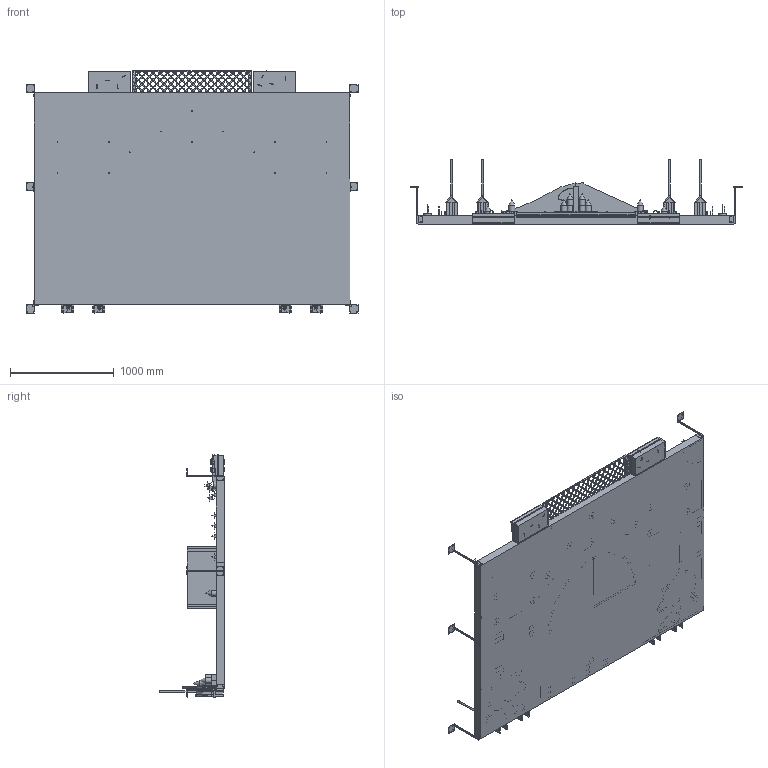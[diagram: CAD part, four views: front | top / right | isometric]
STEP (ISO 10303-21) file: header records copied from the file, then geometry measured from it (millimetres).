
FILE_DESCRIPTION(/* description */ (''),/* implementation_level */ '2;1');
FILE_NAME(/* name */ 'C:\Users\Flopy\OneDrive\SE\2016\Table\ASSY Table with elements.stp',/* time_stamp */ '2015-09-30T19:40:47+02:00',/* author */ ('Flopy'),/* organization */ (''),/* preprocessor_version */ 'ST-DEVELOPER v15.6',/* originating_system */ 'Autodesk Inventor 2015',/* authorisation */ '');
FILE_SCHEMA (('AUTOMOTIVE_DESIGN { 1 0 10303 214 3 1 1 }'));
Length unit declared in the file: millimetre
Products named in the file (40): arc; Beacon support corner; Beacon support middle; Rod 1; Rod 2; Rod 3; Rod 4; Round border; Table; Glass; Aquarium; Net; Rod 7; Rod 8; Net Support; Beach hut - Matt; Beach hut - Roof 2; Beach hut - Roof 1; Beach hut - Wall 1; Beach hut - Wall 2; Beach hut - Wall back; Beach hut - Wall front; Beach hut - door; Beach hut - Ground; Beach hut - Door 2; Beach hut - Wall 3; Beach Hut Green; Beach Hut Green_1; Beach Hut Violet; Beach Hut Violet_1; ASSY Table; Sand Cone; Sand Cube; Sand Cylinder; Seashell Violet; Seashell Green; Seashell; Fish Green; Fish Violet; ASSY Table with elements
Assembly tree (175 placements, depth 4):
  ASSY Table with elements
    ASSY Table
      arc
      Beacon support corner  x4
      Beacon support middle  x2
      Rod 1  x2
      Rod 2  x2
      Rod 3  x2
      Rod 4  x2
      Round border  x2
      Table
      Glass
      Aquarium  x2
      Net
      Rod 7
      Rod 8  x4
      Net Support  x2
      Beach Hut Green
        Beach hut - Matt
        Beach hut - Roof 2
        Beach hut - Roof 1
        Beach hut - Wall 1
        Beach hut - Wall 2
        Beach hut - Wall back
        Beach hut - Wall front
        Beach hut - door
        Beach hut - Ground
        Beach hut - Door 2
        Beach hut - Wall 3
      Beach Hut Green_1
        Beach hut - Matt
        Beach hut - Roof 2
        Beach hut - Roof 1
        Beach hut - Wall 1
        Beach hut - Wall 2
        Beach hut - Wall back
        Beach hut - Wall front
        Beach hut - door
        Beach hut - Ground
        Beach hut - Door 2
        Beach hut - Wall 3
      Beach Hut Violet
        Beach hut - Matt
        Beach hut - Roof 2
        Beach hut - Roof 1
        Beach hut - Wall 1
        Beach hut - Wall 2
        Beach hut - Wall back
        Beach hut - Wall front
        Beach hut - door
        Beach hut - Door 2
        Beach hut - Wall 3
        Beach hut - Ground
      Beach Hut Violet_1
        Beach hut - Matt
        Beach hut - Roof 2
        Beach hut - Roof 1
        Beach hut - Wall 1
        Beach hut - Wall 2
        Beach hut - Wall back
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Bounding box: 3204 x 625.51 x 2336.85 mm (x, y, z)
Volume: 114503011 mm3; surface area: 20346960.5 mm2
Topology: 273 solids, 273 shells, 2812 faces, 6640 edges, 4341 vertices
Faces by surface type: plane 2414, cylinder 335, bspline 54, cone 9
Full cylindrical faces by diameter (mm): 4 x80, 5 x34, 6 x8, 9 x16, 16 x8, 18 x4, 30 x4, 40 x32, 44 x32, 58 x20, 72 x20
Entity records: 41297 total; most frequent: CARTESIAN_POINT 8399, DIRECTION 6878, ORIENTED_EDGE 6300, EDGE_CURVE 3150, AXIS2_PLACEMENT_3D 2482, VERTEX_POINT 2103, LINE 1914, VECTOR 1914
